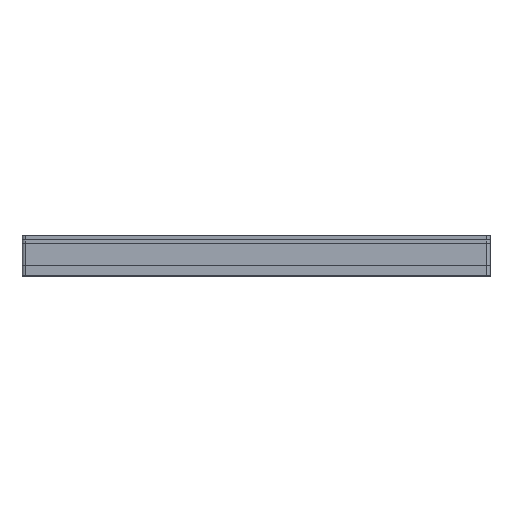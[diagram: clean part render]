
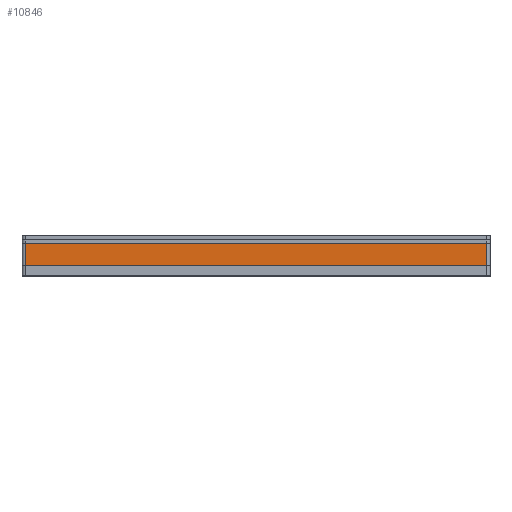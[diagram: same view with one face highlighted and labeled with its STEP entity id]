
A CAD part, top view. The second image highlights one B-rep face of the part: STEP entity #10846.
In plain terms, the highlighted planar face has unit normal (0, 0, 1).
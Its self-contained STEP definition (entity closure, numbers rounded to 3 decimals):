
#59 = DIRECTION ( 'NONE',  ( 1., 0., 0. ) ) ;
#172 = CARTESIAN_POINT ( 'NONE',  ( -135.5, 19., 107.5 ) ) ;
#352 = EDGE_CURVE ( 'NONE', #14997, #8646, #14392, .T. ) ;
#704 = EDGE_CURVE ( 'NONE', #3421, #14328, #1515, .T. ) ;
#1406 = CARTESIAN_POINT ( 'NONE',  ( -135.5, 19., 107.5 ) ) ;
#1515 = LINE ( 'NONE', #4611, #10639 ) ;
#1728 = LINE ( 'NONE', #10734, #15179 ) ;
#2543 = CARTESIAN_POINT ( 'NONE',  ( -135.5, 19., 107.5 ) ) ;
#3421 = VERTEX_POINT ( 'NONE', #4231 ) ;
#3641 = EDGE_CURVE ( 'NONE', #14997, #3421, #13202, .T. ) ;
#3747 = ORIENTED_EDGE ( 'NONE', *, *, #352, .T. ) ;
#3885 = DIRECTION ( 'NONE',  ( 0., -1., 0. ) ) ;
#4231 = CARTESIAN_POINT ( 'NONE',  ( 135.5, 19., 107.5 ) ) ;
#4611 = CARTESIAN_POINT ( 'NONE',  ( 135.5, 19., 107.5 ) ) ;
#5014 = ORIENTED_EDGE ( 'NONE', *, *, #3641, .F. ) ;
#5787 = DIRECTION ( 'NONE',  ( 0., 0., -1. ) ) ;
#7886 = ORIENTED_EDGE ( 'NONE', *, *, #15024, .T. ) ;
#8326 = CARTESIAN_POINT ( 'NONE',  ( 135.5, 6., 107.5 ) ) ;
#8529 = VECTOR ( 'NONE', #59, 1000. ) ;
#8646 = VERTEX_POINT ( 'NONE', #8865 ) ;
#8865 = CARTESIAN_POINT ( 'NONE',  ( -135.5, 6., 107.5 ) ) ;
#8951 = AXIS2_PLACEMENT_3D ( 'NONE', #12954, #5787, #12897 ) ;
#10639 = VECTOR ( 'NONE', #12806, 1000. ) ;
#10734 = CARTESIAN_POINT ( 'NONE',  ( -135.5, 6., 107.5 ) ) ;
#10786 = DIRECTION ( 'NONE',  ( 1., 0., 0. ) ) ;
#10846 = ADVANCED_FACE ( 'NONE', ( #11745 ), #14044, .F. ) ;
#11745 = FACE_OUTER_BOUND ( 'NONE', #13010, .T. ) ;
#12788 = ORIENTED_EDGE ( 'NONE', *, *, #704, .F. ) ;
#12806 = DIRECTION ( 'NONE',  ( 0., -1., 0. ) ) ;
#12897 = DIRECTION ( 'NONE',  ( -1., 0., 0. ) ) ;
#12954 = CARTESIAN_POINT ( 'NONE',  ( -135.5, 19., 107.5 ) ) ;
#13010 = EDGE_LOOP ( 'NONE', ( #7886, #12788, #5014, #3747 ) ) ;
#13202 = LINE ( 'NONE', #2543, #8529 ) ;
#14020 = VECTOR ( 'NONE', #3885, 1000. ) ;
#14044 = PLANE ( 'NONE',  #8951 ) ;
#14328 = VERTEX_POINT ( 'NONE', #8326 ) ;
#14392 = LINE ( 'NONE', #1406, #14020 ) ;
#14997 = VERTEX_POINT ( 'NONE', #172 ) ;
#15024 = EDGE_CURVE ( 'NONE', #8646, #14328, #1728, .T. ) ;
#15179 = VECTOR ( 'NONE', #10786, 1000. ) ;
